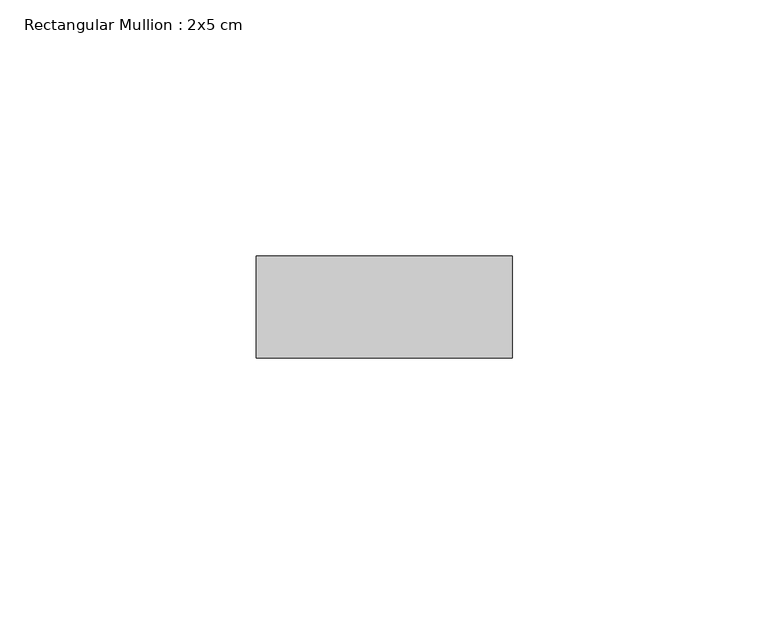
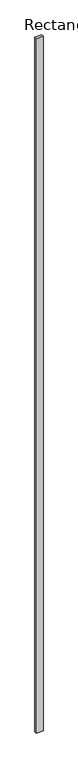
"""IFC4 building model written with IfcOpenShell, lengths in millimetres: member geometry, Rectangular Mullion : 2x5 cm."""

from ifc_helpers import new_model, si_unit, frame, origin, place, context, project, spatial, polyline, outline, extrude, source, transform, mapped, element, save


def rectangular_mullion_2x5_cm_abc959a9(model_context):
    return source(origin(), model_context, "Body", "SweptSolid", [
        extrude(outline(polyline([(50.0, 20.0), (50.0, 0.0), (0.0, 0.0), (0.0, 20.0), (50.0, 20.0)])), frame((0.0, 0.0, -5527.8505774), z_axis=(0.0, 0.0, 1.0), x_axis=(1.0, 0.0, 0.0)), (0.0, 0.0, 1.0), 5527.8505774),
    ])


if __name__ == "__main__":
    model = new_model("IFC4")
    model_context = context("Model", 3, world=origin())
    ifc_project = project(units=[si_unit("LENGTHUNIT", "METRE", prefix="MILLI")], contexts=[model_context])
    site = spatial("IfcSite", under=ifc_project)
    building = spatial("IfcBuilding", under=site)
    placement = place(None, origin())
    rectangular_mullion_2x5_cm_shape = rectangular_mullion_2x5_cm_abc959a9(model_context)
    element("IfcMember", 1, ObjectType="Rectangular Mullion : 2x5 cm", at=placement, inside=building, context=model_context, shape_type="MappedRepresentation", body=[
        mapped(rectangular_mullion_2x5_cm_shape, transform((0.0, 0.0, 0.0), x_axis=(1.0, 0.0, 0.0), y_axis=(0.0, 1.0, 0.0), z_axis=(0.0, 0.0, 1.0))),
    ])
    save(model, "model.ifc")
